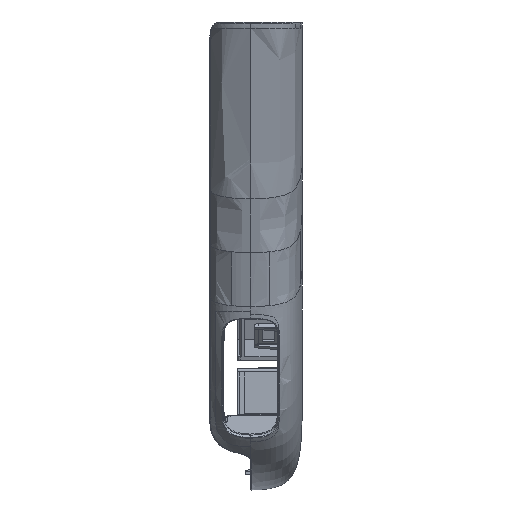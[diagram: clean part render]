
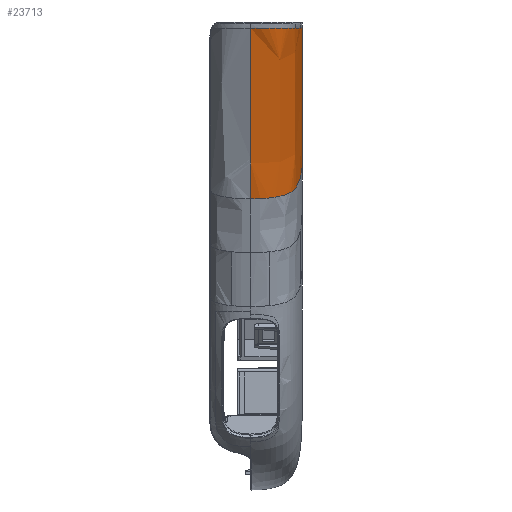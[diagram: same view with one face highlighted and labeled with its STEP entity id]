
A CAD part, front view. The second image highlights one B-rep face of the part: STEP entity #23713.
In plain terms, the highlighted face is a extrusion surface.
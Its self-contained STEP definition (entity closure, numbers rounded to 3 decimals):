
#10=CARTESIAN_POINT('',(271.275,-123.322,754.921));
#827=DIRECTION('',(0.,-0.337,0.941));
#828=VECTOR('',#827,48.494);
#829=CARTESIAN_POINT('',(253.275,-160.081,709.267));
#830=LINE('',#829,#828);
#831=CARTESIAN_POINT('',(253.275,-176.432,754.921));
#832=CARTESIAN_POINT('',(253.7,-176.432,754.922));
#833=CARTESIAN_POINT('',(254.551,-176.415,754.922));
#834=CARTESIAN_POINT('',(255.824,-176.332,754.921));
#835=CARTESIAN_POINT('',(257.094,-176.183,754.921));
#836=CARTESIAN_POINT('',(258.281,-175.969,754.921));
#837=CARTESIAN_POINT('',(259.111,-175.763,754.921));
#838=CARTESIAN_POINT('',(259.932,-175.523,754.921));
#839=CARTESIAN_POINT('',(260.812,-175.219,754.921));
#840=CARTESIAN_POINT('',(261.986,-174.684,754.921));
#841=CARTESIAN_POINT('',(263.102,-174.027,754.921));
#842=CARTESIAN_POINT('',(264.14,-173.244,754.922));
#843=CARTESIAN_POINT('',(265.088,-172.345,754.922));
#844=CARTESIAN_POINT('',(265.859,-171.428,754.922));
#845=CARTESIAN_POINT('',(266.364,-170.709,754.921));
#846=CARTESIAN_POINT('',(266.836,-169.965,754.921));
#847=CARTESIAN_POINT('',(267.285,-169.16,754.921));
#848=CARTESIAN_POINT('',(267.662,-168.354,754.921));
#849=CARTESIAN_POINT('',(268.013,-167.533,754.921));
#850=CARTESIAN_POINT('',(268.256,-166.899,754.921));
#851=CARTESIAN_POINT('',(268.547,-166.045,754.921));
#852=CARTESIAN_POINT('',(268.682,-165.613,754.921));
#853=CARTESIAN_POINT('',(268.767,-165.326,754.921));
#855=CARTESIAN_POINT('',(268.767,-165.326,754.921));
#856=CARTESIAN_POINT('',(268.92,-164.805,754.921));
#857=CARTESIAN_POINT('',(269.203,-163.743,754.921));
#858=CARTESIAN_POINT('',(269.561,-162.095,754.921));
#859=CARTESIAN_POINT('',(269.859,-160.422,754.92));
#860=CARTESIAN_POINT('',(270.029,-159.269,754.92));
#861=CARTESIAN_POINT('',(270.186,-158.105,754.92));
#862=CARTESIAN_POINT('',(270.32,-156.991,754.921));
#863=CARTESIAN_POINT('',(270.44,-155.803,754.921));
#864=CARTESIAN_POINT('',(270.527,-154.864,754.921));
#865=CARTESIAN_POINT('',(270.6,-154.012,754.921));
#866=CARTESIAN_POINT('',(270.69,-152.812,754.921));
#867=CARTESIAN_POINT('',(270.75,-151.956,754.921));
#868=CARTESIAN_POINT('',(270.777,-151.528,754.921));
#870=CARTESIAN_POINT('',(270.777,-151.528,754.921));
#871=CARTESIAN_POINT('',(270.84,-150.354,754.921));
#872=CARTESIAN_POINT('',(270.966,-148.006,754.92));
#873=CARTESIAN_POINT('',(271.087,-144.481,754.919));
#874=CARTESIAN_POINT('',(271.164,-140.955,754.919));
#875=CARTESIAN_POINT('',(271.218,-137.429,754.919));
#876=CARTESIAN_POINT('',(271.248,-133.902,754.92));
#877=CARTESIAN_POINT('',(271.272,-129.2,754.921));
#878=CARTESIAN_POINT('',(271.274,-125.673,754.921));
#879=CARTESIAN_POINT('',(271.275,-123.322,754.921));
#881=CARTESIAN_POINT('',(253.275,-155.094,695.341));
#882=CARTESIAN_POINT('',(257.681,-155.094,695.341));
#883=CARTESIAN_POINT('',(264.29,-153.542,695.897));
#884=CARTESIAN_POINT('',(269.995,-145.218,698.878));
#885=CARTESIAN_POINT('',(270.971,-133.381,703.117));
#886=CARTESIAN_POINT('',(271.17,-123.323,706.72));
#888=DIRECTION('',(0.,-0.337,0.941));
#889=VECTOR('',#888,13.277);
#890=CARTESIAN_POINT('',(253.275,-155.094,695.341));
#891=LINE('',#890,#889);
#892=DIRECTION('',(0.,-0.337,0.941));
#893=VECTOR('',#892,1.516);
#894=CARTESIAN_POINT('',(253.275,-159.57,707.84));
#895=LINE('',#894,#893);
#957=CARTESIAN_POINT('',(271.17,-123.323,706.72));
#1018=CARTESIAN_POINT('',(271.17,-123.323,706.72));
#1019=CARTESIAN_POINT('',(271.202,-123.33,711.849));
#1020=CARTESIAN_POINT('',(271.247,-123.318,722.267));
#1021=CARTESIAN_POINT('',(271.272,-123.326,738.331));
#1022=CARTESIAN_POINT('',(271.275,-123.316,749.344));
#1023=CARTESIAN_POINT('',(271.275,-123.322,754.921));
#15687=VERTEX_POINT('',#10);
#15694=VERTEX_POINT('',#957);
#15703=CARTESIAN_POINT('',(253.275,-155.094,
695.341));
#15704=VERTEX_POINT('',#15703);
#15705=VERTEX_POINT('',#870);
#15706=VERTEX_POINT('',#831);
#15707=VERTEX_POINT('',#853);
#15801=CARTESIAN_POINT('',(253.275,-159.57,
707.84));
#15802=VERTEX_POINT('',#15801);
#15803=CARTESIAN_POINT('',(253.275,-160.081,
709.267));
#15804=VERTEX_POINT('',#15803);
#23684=CARTESIAN_POINT('',(271.275,-128.912,
772.343));
#23685=CARTESIAN_POINT('',(271.275,-129.104,
772.275));
#23686=CARTESIAN_POINT('',(271.275,-148.263,
765.413));
#23687=CARTESIAN_POINT('',(271.028,-165.177,
759.356));
#23688=CARTESIAN_POINT('',(264.291,-175.008,
755.834));
#23689=CARTESIAN_POINT('',(257.526,-176.596,
755.266));
#23690=CARTESIAN_POINT('',(252.861,-176.558,
755.279));
#23691=CARTESIAN_POINT('',(252.65,-176.555,
755.281));
#23693=DIRECTION('',(0.,-0.337,0.941));
#23694=VECTOR('',#23693,1.);
#23695=SURFACE_OF_LINEAR_EXTRUSION('',#23692,#23694);
#23697=ORIENTED_EDGE('',*,*,#23696,.T.);
#23699=ORIENTED_EDGE('',*,*,#23698,.T.);
#23701=ORIENTED_EDGE('',*,*,#23700,.T.);
#23702=ORIENTED_EDGE('',*,*,#23677,.T.);
#23704=ORIENTED_EDGE('',*,*,#23703,.F.);
#23706=ORIENTED_EDGE('',*,*,#23705,.F.);
#23708=ORIENTED_EDGE('',*,*,#23707,.T.);
#23710=ORIENTED_EDGE('',*,*,#23709,.T.);
#23711=EDGE_LOOP('',(#23697,#23699,#23701,#23702,#23704,#23706,#23708,#23710));
#23712=FACE_OUTER_BOUND('',#23711,.F.);
#23713=ADVANCED_FACE('',(#23712),#23695,.F.);
#854=B_SPLINE_CURVE_WITH_KNOTS('',3,(#831,#832,#833,#834,#835,#836,#837,#838,
#839,#840,#841,#842,#843,#844,#845,#846,#847,#848,#849,#850,#851,#852,#853),
.UNSPECIFIED.,.F.,.F.,(4,1,1,1,1,1,1,1,1,1,1,1,1,1,1,1,1,1,1,1,4),(0.,
0.063,0.125,0.188,0.25,
0.302,0.313,0.375,0.438,
0.5,0.563,0.625,0.688,
0.734,0.75,0.813,0.864,
0.875,0.938,0.959,1.),.UNSPECIFIED.);
#869=B_SPLINE_CURVE_WITH_KNOTS('',3,(#855,#856,#857,#858,#859,#860,#861,#862,
#863,#864,#865,#866,#867,#868),.UNSPECIFIED.,.F.,.F.,(4,1,1,1,1,1,1,1,1,1,1,4),(
0.,0.125,0.25,0.375,0.495,0.5,0.625,0.733,
0.75,0.822,0.911,1.),.UNSPECIFIED.);
#880=B_SPLINE_CURVE_WITH_KNOTS('',3,(#870,#871,#872,#873,#874,#875,#876,#877,
#878,#879),.UNSPECIFIED.,.F.,.F.,(4,1,1,1,1,1,1,4),(0.,0.125,
0.25,0.375,0.5,0.625,
0.75,1.),.UNSPECIFIED.);
#887=B_SPLINE_CURVE_WITH_KNOTS('',3,(#881,#882,#883,#884,#885,#886),
.UNSPECIFIED.,.F.,.F.,(4,1,1,4),(0.,0.295,0.59,1.),
.UNSPECIFIED.);
#1024=B_SPLINE_CURVE_WITH_KNOTS('',3,(#1018,#1019,#1020,#1021,#1022,#1023),
.UNSPECIFIED.,.F.,.F.,(4,1,1,4),(0.,0.333,0.667,1.),
.UNSPECIFIED.);
#23677=EDGE_CURVE('',#15705,#15687,#880,.T.);
#23692=B_SPLINE_CURVE_WITH_KNOTS('',3,(#23684,#23685,#23686,#23687,#23688,
#23689,#23690,#23691),.UNSPECIFIED.,.F.,.F.,(4,1,1,1,1,4),(0.,
0.005,0.497,0.743,0.989,1.),
.UNSPECIFIED.);
#23696=EDGE_CURVE('',#15804,#15706,#830,.T.);
#23698=EDGE_CURVE('',#15706,#15707,#854,.T.);
#23700=EDGE_CURVE('',#15707,#15705,#869,.T.);
#23703=EDGE_CURVE('',#15694,#15687,#1024,.T.);
#23705=EDGE_CURVE('',#15704,#15694,#887,.T.);
#23707=EDGE_CURVE('',#15704,#15802,#891,.T.);
#23709=EDGE_CURVE('',#15802,#15804,#895,.T.);
